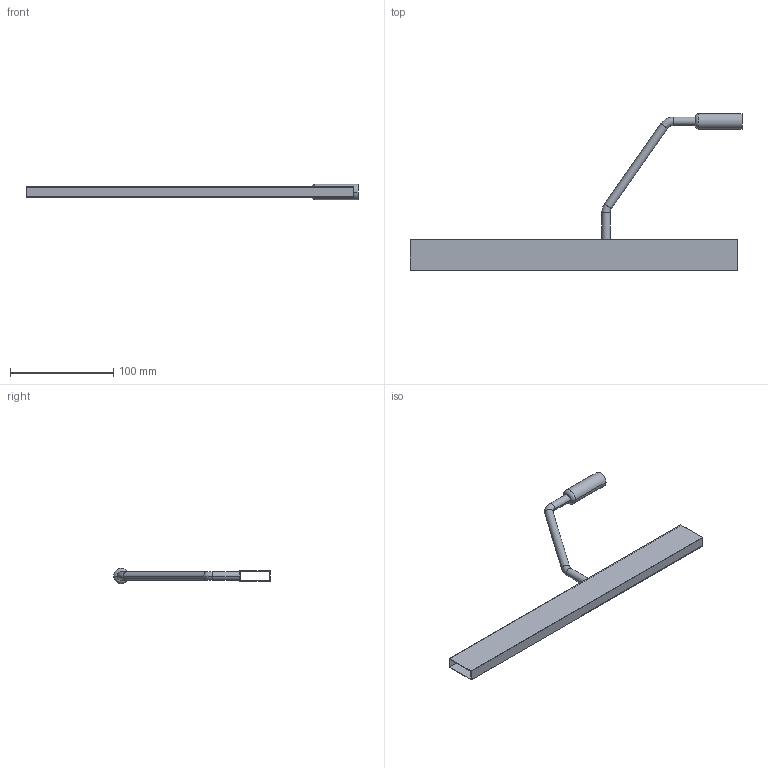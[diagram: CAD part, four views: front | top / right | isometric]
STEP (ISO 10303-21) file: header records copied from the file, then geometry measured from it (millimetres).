
FILE_DESCRIPTION (( 'STEP AP214' ), '1' );
FILE_NAME ('_DWD XP Rechteckreling mit Frontabstützung NL350.step', '2010-07-14T13:27:12', ( 'grass' ), ( '' ), 'SwSTEP 2.0', 'SolidWorks 2010', '' );
FILE_SCHEMA (( 'AUTOMOTIVE_DESIGN' ));
Length unit declared in the file: millimetre
Products named in the file (1): _DWD XP Rechteckreling mit Frontabstützung NL350
Bounding box: 321.6 x 151.9 x 15 mm (x, y, z)
Volume: 30844.7 mm3; surface area: 56250.6 mm2
Topology: 1 solids, 1 shells, 25 faces, 54 edges, 32 vertices
Faces by surface type: plane 11, cylinder 8, torus 6
Entity records: 712 total; most frequent: DIRECTION 128, CARTESIAN_POINT 112, ORIENTED_EDGE 108, EDGE_CURVE 54, AXIS2_PLACEMENT_3D 48, VECTOR 32, LINE 32, VERTEX_POINT 32
